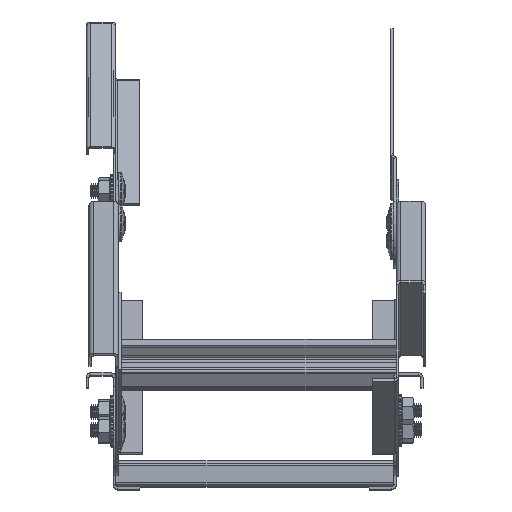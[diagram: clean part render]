
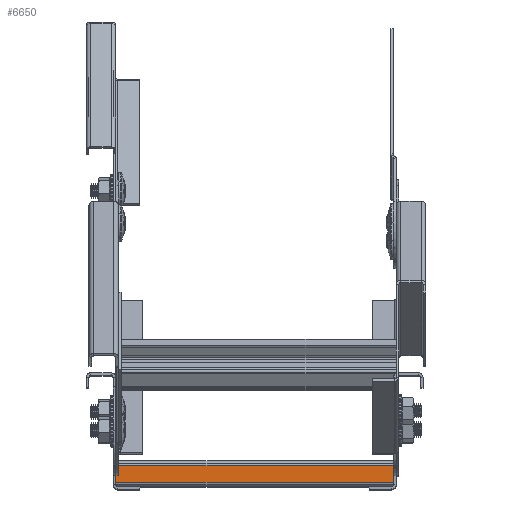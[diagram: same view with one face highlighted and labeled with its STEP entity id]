
A CAD part, top view. The second image highlights one B-rep face of the part: STEP entity #6650.
In plain terms, the highlighted planar face has unit normal (0, 0, 1) as drawn and (1, 0, 0) by its records, which use the part's own axes.
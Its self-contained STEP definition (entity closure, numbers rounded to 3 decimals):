
#141 = DIRECTION ( 'NONE',  ( 0., 1., 0. ) ) ;
#164 = FACE_OUTER_BOUND ( 'NONE', #13267, .T. ) ;
#393 = VERTEX_POINT ( 'NONE', #10090 ) ;
#444 = VECTOR ( 'NONE', #15217, 1000. ) ;
#1494 = CARTESIAN_POINT ( 'NONE',  ( 17.5, 11.5, 75. ) ) ;
#2607 = DIRECTION ( 'NONE',  ( 0., 0., 1. ) ) ;
#2711 = CARTESIAN_POINT ( 'NONE',  ( 17.5, 11.5, -75. ) ) ;
#3052 = VECTOR ( 'NONE', #6925, 1000. ) ;
#3218 = LINE ( 'NONE', #8123, #3052 ) ;
#3790 = DIRECTION ( 'NONE',  ( -1., 0., 0. ) ) ;
#4973 = PLANE ( 'NONE',  #6106 ) ;
#5580 = CARTESIAN_POINT ( 'NONE',  ( 17.5, 2.5, 75. ) ) ;
#6065 = EDGE_CURVE ( 'NONE', #15078, #13579, #3218, .T. ) ;
#6106 = AXIS2_PLACEMENT_3D ( 'NONE', #9809, #3790, #2607 ) ;
#6650 = ADVANCED_FACE ( 'NONE', ( #164 ), #4973, .F. ) ;
#6925 = DIRECTION ( 'NONE',  ( 0., 1., 0. ) ) ;
#6954 = ORIENTED_EDGE ( 'NONE', *, *, #10617, .T. ) ;
#7705 = ORIENTED_EDGE ( 'NONE', *, *, #11292, .F. ) ;
#7834 = VECTOR ( 'NONE', #141, 1000. ) ;
#8123 = CARTESIAN_POINT ( 'NONE',  ( 17.5, 0., 75. ) ) ;
#8751 = VERTEX_POINT ( 'NONE', #2711 ) ;
#9049 = ORIENTED_EDGE ( 'NONE', *, *, #6065, .F. ) ;
#9809 = CARTESIAN_POINT ( 'NONE',  ( 17.5, 0., 75. ) ) ;
#10090 = CARTESIAN_POINT ( 'NONE',  ( 17.5, 2.5, -75. ) ) ;
#10617 = EDGE_CURVE ( 'NONE', #15078, #393, #13884, .T. ) ;
#11006 = CARTESIAN_POINT ( 'NONE',  ( 17.5, 11.5, 75. ) ) ;
#11054 = VECTOR ( 'NONE', #13814, 1000. ) ;
#11292 = EDGE_CURVE ( 'NONE', #13579, #8751, #12551, .T. ) ;
#11713 = ORIENTED_EDGE ( 'NONE', *, *, #14872, .T. ) ;
#12551 = LINE ( 'NONE', #1494, #11054 ) ;
#13267 = EDGE_LOOP ( 'NONE', ( #11713, #7705, #9049, #6954 ) ) ;
#13394 = LINE ( 'NONE', #14734, #7834 ) ;
#13579 = VERTEX_POINT ( 'NONE', #11006 ) ;
#13814 = DIRECTION ( 'NONE',  ( 0., 0., -1. ) ) ;
#13884 = LINE ( 'NONE', #13964, #444 ) ;
#13964 = CARTESIAN_POINT ( 'NONE',  ( 17.5, 2.5, 75. ) ) ;
#14734 = CARTESIAN_POINT ( 'NONE',  ( 17.5, 0., -75. ) ) ;
#14872 = EDGE_CURVE ( 'NONE', #393, #8751, #13394, .T. ) ;
#15078 = VERTEX_POINT ( 'NONE', #5580 ) ;
#15217 = DIRECTION ( 'NONE',  ( 0., 0., -1. ) ) ;
